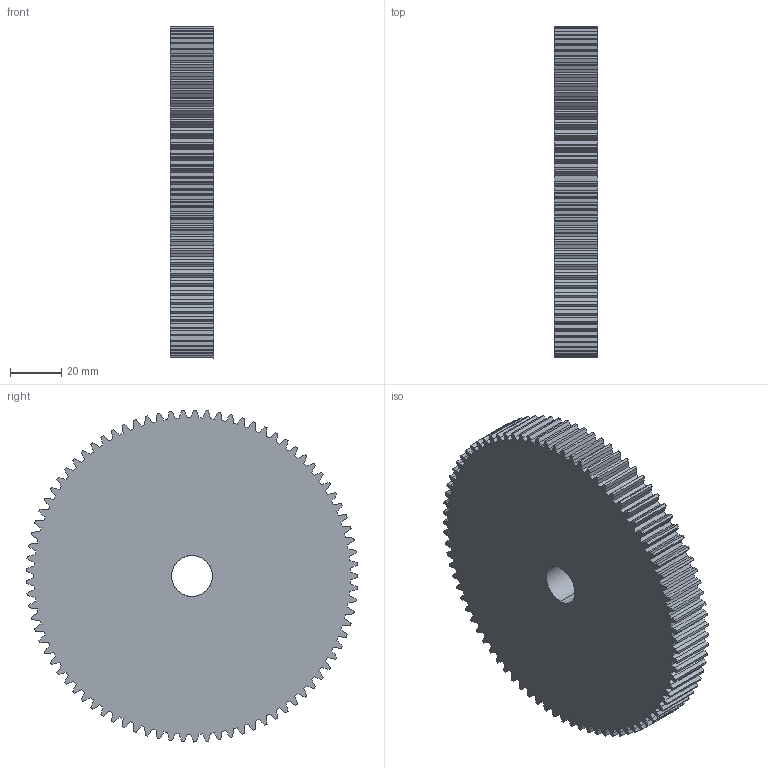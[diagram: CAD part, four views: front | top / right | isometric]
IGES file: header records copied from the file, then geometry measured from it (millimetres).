
Start section: SolidWorks IGES file using analytic representation for surfaces
Global section: file name: C:\Users\Honza\Desktop\Matis (Hotove)\Èelní ozubená kola\MODUL 1,5\CM 27085.IGS; native system: SolidWorks 2010; preprocessor: SolidWorks 2010; author: Honza; date: 130923.111805; units: millimetre
Bounding box: 17 x 129.97 x 129.99 mm (x, y, z)
Surface area: 38516.8 mm2 (no closed solid volume)
Topology: 0 solids, 0 shells, 514 faces, 3132 edges, 3132 vertices
Faces by surface type: bspline 342, revolution 172
